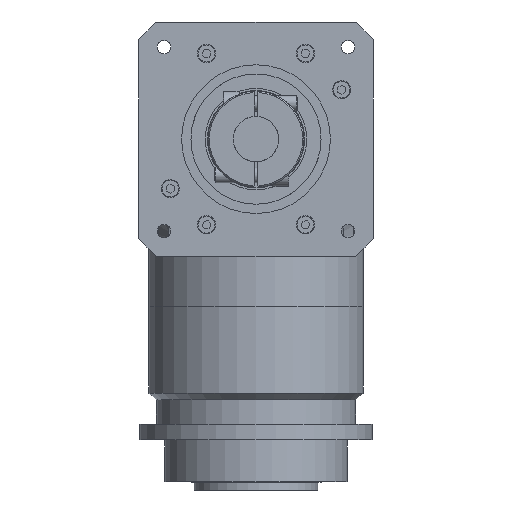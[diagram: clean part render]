
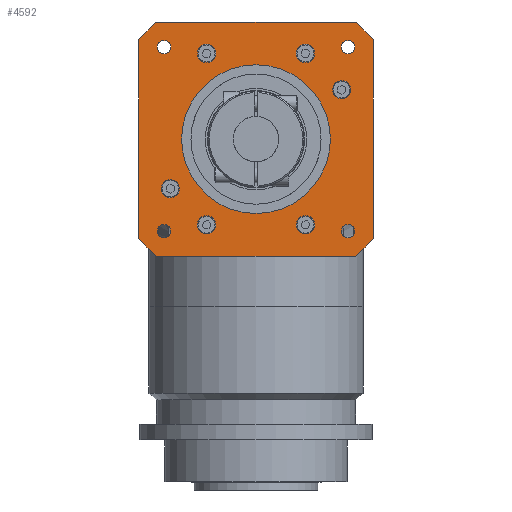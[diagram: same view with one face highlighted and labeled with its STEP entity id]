
A CAD part, front view. The second image highlights one B-rep face of the part: STEP entity #4592.
In plain terms, the highlighted planar face has unit normal (0, -1, 0).
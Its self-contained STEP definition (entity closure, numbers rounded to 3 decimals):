
#760=LINE('',#14766,#1173);
#761=LINE('',#14771,#1174);
#762=LINE('',#14775,#1175);
#763=LINE('',#14779,#1176);
#1173=VECTOR('',#12398,1.);
#1174=VECTOR('',#12401,1.);
#1175=VECTOR('',#12404,1.);
#1176=VECTOR('',#12407,1.);
#4180=PLANE('',#10674);
#4592=ADVANCED_FACE('',(#5364,#5365,#5366,#5367,#5368,#5369,#5370,#5371,
#5372,#5373,#5374,#5375),#4180,.F.);
#5364=FACE_BOUND('',#6113,.T.);
#5365=FACE_BOUND('',#6114,.T.);
#5366=FACE_BOUND('',#6115,.T.);
#5367=FACE_BOUND('',#6116,.T.);
#5368=FACE_BOUND('',#6117,.T.);
#5369=FACE_BOUND('',#6118,.T.);
#5370=FACE_BOUND('',#6119,.T.);
#5371=FACE_BOUND('',#6120,.T.);
#5372=FACE_BOUND('',#6121,.T.);
#5373=FACE_BOUND('',#6122,.T.);
#5374=FACE_BOUND('',#6123,.T.);
#5375=FACE_BOUND('',#6124,.T.);
#6113=EDGE_LOOP('',(#7519));
#6114=EDGE_LOOP('',(#7520));
#6115=EDGE_LOOP('',(#7521));
#6116=EDGE_LOOP('',(#7522,#7523,#7524,#7525,#7526,#7527,#7528,#7529));
#6117=EDGE_LOOP('',(#7530));
#6118=EDGE_LOOP('',(#7531));
#6119=EDGE_LOOP('',(#7532));
#6120=EDGE_LOOP('',(#7533));
#6121=EDGE_LOOP('',(#7534));
#6122=EDGE_LOOP('',(#7535));
#6123=EDGE_LOOP('',(#7536));
#6124=EDGE_LOOP('',(#7537));
#7519=ORIENTED_EDGE('',*,*,#9355,.F.);
#7520=ORIENTED_EDGE('',*,*,#9356,.F.);
#7521=ORIENTED_EDGE('',*,*,#9357,.F.);
#7522=ORIENTED_EDGE('',*,*,#9358,.F.);
#7523=ORIENTED_EDGE('',*,*,#9359,.T.);
#7524=ORIENTED_EDGE('',*,*,#9360,.F.);
#7525=ORIENTED_EDGE('',*,*,#9361,.T.);
#7526=ORIENTED_EDGE('',*,*,#9362,.F.);
#7527=ORIENTED_EDGE('',*,*,#9363,.T.);
#7528=ORIENTED_EDGE('',*,*,#9364,.F.);
#7529=ORIENTED_EDGE('',*,*,#9365,.T.);
#7530=ORIENTED_EDGE('',*,*,#9366,.F.);
#7531=ORIENTED_EDGE('',*,*,#9367,.F.);
#7532=ORIENTED_EDGE('',*,*,#9368,.F.);
#7533=ORIENTED_EDGE('',*,*,#9369,.F.);
#7534=ORIENTED_EDGE('',*,*,#9370,.F.);
#7535=ORIENTED_EDGE('',*,*,#9371,.F.);
#7536=ORIENTED_EDGE('',*,*,#9372,.F.);
#7537=ORIENTED_EDGE('',*,*,#9373,.F.);
#8566=VERTEX_POINT('',#14761);
#8567=VERTEX_POINT('',#14763);
#8568=VERTEX_POINT('',#14765);
#8569=VERTEX_POINT('',#14767);
#8570=VERTEX_POINT('',#14768);
#8571=VERTEX_POINT('',#14770);
#8572=VERTEX_POINT('',#14772);
#8573=VERTEX_POINT('',#14774);
#8574=VERTEX_POINT('',#14776);
#8575=VERTEX_POINT('',#14778);
#8576=VERTEX_POINT('',#14780);
#8577=VERTEX_POINT('',#14783);
#8578=VERTEX_POINT('',#14785);
#8579=VERTEX_POINT('',#14787);
#8580=VERTEX_POINT('',#14789);
#8581=VERTEX_POINT('',#14791);
#8582=VERTEX_POINT('',#14793);
#8583=VERTEX_POINT('',#14795);
#8584=VERTEX_POINT('',#14797);
#9355=EDGE_CURVE('',#8566,#8566,#9939,.T.);
#9356=EDGE_CURVE('',#8567,#8567,#9940,.T.);
#9357=EDGE_CURVE('',#8568,#8568,#9941,.T.);
#9358=EDGE_CURVE('',#8569,#8570,#760,.T.);
#9359=EDGE_CURVE('',#8569,#8571,#9942,.T.);
#9360=EDGE_CURVE('',#8572,#8571,#761,.T.);
#9361=EDGE_CURVE('',#8572,#8573,#9943,.T.);
#9362=EDGE_CURVE('',#8574,#8573,#762,.T.);
#9363=EDGE_CURVE('',#8574,#8575,#9944,.T.);
#9364=EDGE_CURVE('',#8576,#8575,#763,.T.);
#9365=EDGE_CURVE('',#8576,#8570,#9945,.T.);
#9366=EDGE_CURVE('',#8577,#8577,#9946,.T.);
#9367=EDGE_CURVE('',#8578,#8578,#9947,.T.);
#9368=EDGE_CURVE('',#8579,#8579,#9948,.T.);
#9369=EDGE_CURVE('',#8580,#8580,#9949,.T.);
#9370=EDGE_CURVE('',#8581,#8581,#9950,.T.);
#9371=EDGE_CURVE('',#8582,#8582,#9951,.T.);
#9372=EDGE_CURVE('',#8583,#8583,#9952,.T.);
#9373=EDGE_CURVE('',#8584,#8584,#9953,.T.);
#9939=CIRCLE('',#10659,5.1);
#9940=CIRCLE('',#10660,5.1);
#9941=CIRCLE('',#10661,5.1);
#9942=CIRCLE('',#10662,118.);
#9943=CIRCLE('',#10663,118.);
#9944=CIRCLE('',#10664,118.);
#9945=CIRCLE('',#10665,118.);
#9946=CIRCLE('',#10666,57.15);
#9947=CIRCLE('',#10667,7.);
#9948=CIRCLE('',#10668,7.);
#9949=CIRCLE('',#10669,7.);
#9950=CIRCLE('',#10670,7.);
#9951=CIRCLE('',#10671,7.);
#9952=CIRCLE('',#10672,7.);
#9953=CIRCLE('',#10673,5.1);
#10659=AXIS2_PLACEMENT_3D('',#14760,#12392,#12393);
#10660=AXIS2_PLACEMENT_3D('',#14762,#12394,#12395);
#10661=AXIS2_PLACEMENT_3D('',#14764,#12396,#12397);
#10662=AXIS2_PLACEMENT_3D('',#14769,#12399,#12400);
#10663=AXIS2_PLACEMENT_3D('',#14773,#12402,#12403);
#10664=AXIS2_PLACEMENT_3D('',#14777,#12405,#12406);
#10665=AXIS2_PLACEMENT_3D('',#14781,#12408,#12409);
#10666=AXIS2_PLACEMENT_3D('',#14782,#12410,#12411);
#10667=AXIS2_PLACEMENT_3D('',#14784,#12412,#12413);
#10668=AXIS2_PLACEMENT_3D('',#14786,#12414,#12415);
#10669=AXIS2_PLACEMENT_3D('',#14788,#12416,#12417);
#10670=AXIS2_PLACEMENT_3D('',#14790,#12418,#12419);
#10671=AXIS2_PLACEMENT_3D('',#14792,#12420,#12421);
#10672=AXIS2_PLACEMENT_3D('',#14794,#12422,#12423);
#10673=AXIS2_PLACEMENT_3D('',#14796,#12424,#12425);
#10674=AXIS2_PLACEMENT_3D('',#14798,#12426,#12427);
#12392=DIRECTION('',(0.,-1.,0.));
#12393=DIRECTION('',(-1.,0.,0.));
#12394=DIRECTION('',(0.,-1.,0.));
#12395=DIRECTION('',(-1.,0.,0.));
#12396=DIRECTION('',(0.,-1.,0.));
#12397=DIRECTION('',(-1.,0.,0.));
#12398=DIRECTION('',(0.,0.,1.));
#12399=DIRECTION('',(0.,-1.,0.));
#12400=DIRECTION('',(-1.,0.,0.));
#12401=DIRECTION('',(-1.,0.,0.));
#12402=DIRECTION('',(0.,-1.,0.));
#12403=DIRECTION('',(-1.,0.,0.));
#12404=DIRECTION('',(0.,0.,-1.));
#12405=DIRECTION('',(0.,-1.,0.));
#12406=DIRECTION('',(-1.,0.,0.));
#12407=DIRECTION('',(1.,0.,0.));
#12408=DIRECTION('',(0.,-1.,0.));
#12409=DIRECTION('',(-1.,0.,0.));
#12410=DIRECTION('',(0.,-1.,0.));
#12411=DIRECTION('',(-1.,0.,0.));
#12412=DIRECTION('',(0.,-1.,0.));
#12413=DIRECTION('',(-1.,0.,0.));
#12414=DIRECTION('',(0.,-1.,0.));
#12415=DIRECTION('',(-0.866,0.,-0.5));
#12416=DIRECTION('',(0.,-1.,0.));
#12417=DIRECTION('',(0.,0.,-1.));
#12418=DIRECTION('',(0.,-1.,0.));
#12419=DIRECTION('',(1.,0.,0.));
#12420=DIRECTION('',(0.,-1.,0.));
#12421=DIRECTION('',(0.866,0.,0.5));
#12422=DIRECTION('',(0.,-1.,0.));
#12423=DIRECTION('',(0.,0.,1.));
#12424=DIRECTION('',(0.,-1.,0.));
#12425=DIRECTION('',(-1.,0.,0.));
#12426=DIRECTION('',(0.,1.,0.));
#12427=DIRECTION('',(1.,0.,0.));
#14760=CARTESIAN_POINT('',(-223.341,-155.,109.289));
#14761=CARTESIAN_POINT('',(-228.441,-155.,109.289));
#14762=CARTESIAN_POINT('',(-81.92,-155.,109.289));
#14763=CARTESIAN_POINT('',(-87.02,-155.,109.289));
#14764=CARTESIAN_POINT('',(-81.92,-155.,250.711));
#14765=CARTESIAN_POINT('',(-87.02,-155.,250.711));
#14766=CARTESIAN_POINT('',(-242.63,-155.,122.85));
#14767=CARTESIAN_POINT('',(-242.63,-155.,103.685));
#14768=CARTESIAN_POINT('',(-242.63,-155.,256.315));
#14769=CARTESIAN_POINT('',(-152.63,-155.,180.));
#14770=CARTESIAN_POINT('',(-228.945,-155.,90.));
#14771=CARTESIAN_POINT('',(-152.63,-155.,90.));
#14772=CARTESIAN_POINT('',(-76.315,-155.,90.));
#14773=CARTESIAN_POINT('',(-152.63,-155.,180.));
#14774=CARTESIAN_POINT('',(-62.63,-155.,103.685));
#14775=CARTESIAN_POINT('',(-62.63,-155.,122.85));
#14776=CARTESIAN_POINT('',(-62.63,-155.,256.315));
#14777=CARTESIAN_POINT('',(-152.63,-155.,180.));
#14778=CARTESIAN_POINT('',(-76.315,-155.,270.));
#14779=CARTESIAN_POINT('',(-152.63,-155.,270.));
#14780=CARTESIAN_POINT('',(-228.945,-155.,270.));
#14781=CARTESIAN_POINT('',(-152.63,-155.,180.));
#14782=CARTESIAN_POINT('',(-152.63,-155.,180.));
#14783=CARTESIAN_POINT('',(-209.78,-155.,180.));
#14784=CARTESIAN_POINT('',(-218.448,-155.,142.));
#14785=CARTESIAN_POINT('',(-225.448,-155.,142.));
#14786=CARTESIAN_POINT('',(-190.63,-155.,114.182));
#14787=CARTESIAN_POINT('',(-196.692,-155.,110.682));
#14788=CARTESIAN_POINT('',(-114.63,-155.,114.182));
#14789=CARTESIAN_POINT('',(-114.63,-155.,107.182));
#14790=CARTESIAN_POINT('',(-86.812,-155.,218.));
#14791=CARTESIAN_POINT('',(-79.812,-155.,218.));
#14792=CARTESIAN_POINT('',(-114.63,-155.,245.818));
#14793=CARTESIAN_POINT('',(-108.568,-155.,249.318));
#14794=CARTESIAN_POINT('',(-190.63,-155.,245.818));
#14795=CARTESIAN_POINT('',(-190.63,-155.,252.818));
#14796=CARTESIAN_POINT('',(-223.341,-155.,250.711));
#14797=CARTESIAN_POINT('',(-228.441,-155.,250.711));
#14798=CARTESIAN_POINT('',(-152.63,-155.,122.85));
